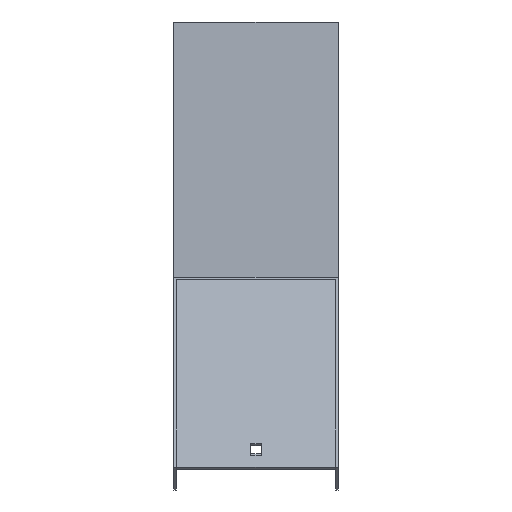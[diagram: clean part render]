
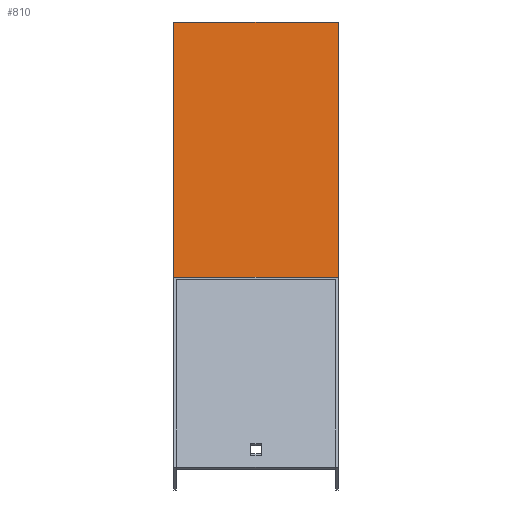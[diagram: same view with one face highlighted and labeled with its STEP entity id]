
A CAD part, top view. The second image highlights one B-rep face of the part: STEP entity #810.
In plain terms, the highlighted planar face has unit normal (0, 0.924, 0.383).
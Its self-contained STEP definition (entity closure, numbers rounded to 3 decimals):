
#8 = VERTEX_POINT ( 'NONE', #545 ) ;
#21 = CARTESIAN_POINT ( 'NONE',  ( -51.5, 20., 168.978 ) ) ;
#46 = DIRECTION ( 'NONE',  ( 0., 0.383, -0.924 ) ) ;
#94 = DIRECTION ( 'NONE',  ( -1., 0., 0. ) ) ;
#116 = EDGE_CURVE ( 'NONE', #495, #609, #800, .T. ) ;
#140 = CARTESIAN_POINT ( 'NONE',  ( 51.5, 20., 168.978 ) ) ;
#148 = ORIENTED_EDGE ( 'NONE', *, *, #116, .T. ) ;
#155 = DIRECTION ( 'NONE',  ( 0., -0.383, 0.924 ) ) ;
#166 = ORIENTED_EDGE ( 'NONE', *, *, #533, .F. ) ;
#171 = DIRECTION ( 'NONE',  ( 0., -0.924, -0.383 ) ) ;
#182 = VECTOR ( 'NONE', #155, 1000. ) ;
#251 = VECTOR ( 'NONE', #94, 1000. ) ;
#263 = EDGE_CURVE ( 'NONE', #8, #495, #592, .T. ) ;
#293 = CARTESIAN_POINT ( 'NONE',  ( 51.5, 18.478, 172.654 ) ) ;
#314 = VECTOR ( 'NONE', #528, 1000. ) ;
#326 = CARTESIAN_POINT ( 'NONE',  ( 51.5, -141.093, 557.891 ) ) ;
#402 = DIRECTION ( 'NONE',  ( 0., -0.383, 0.924 ) ) ;
#461 = LINE ( 'NONE', #485, #251 ) ;
#485 = CARTESIAN_POINT ( 'NONE',  ( 51.5, -141.093, 557.891 ) ) ;
#495 = VERTEX_POINT ( 'NONE', #21 ) ;
#528 = DIRECTION ( 'NONE',  ( -1., 0., 0. ) ) ;
#533 = EDGE_CURVE ( 'NONE', #8, #651, #685, .T. ) ;
#537 = ORIENTED_EDGE ( 'NONE', *, *, #670, .F. ) ;
#545 = CARTESIAN_POINT ( 'NONE',  ( 51.5, 20., 168.978 ) ) ;
#566 = CARTESIAN_POINT ( 'NONE',  ( 51.5, 18.478, 172.654 ) ) ;
#581 = ORIENTED_EDGE ( 'NONE', *, *, #263, .T. ) ;
#592 = LINE ( 'NONE', #140, #314 ) ;
#609 = VERTEX_POINT ( 'NONE', #759 ) ;
#645 = EDGE_LOOP ( 'NONE', ( #148, #537, #166, #581 ) ) ;
#651 = VERTEX_POINT ( 'NONE', #326 ) ;
#670 = EDGE_CURVE ( 'NONE', #651, #609, #461, .T. ) ;
#685 = LINE ( 'NONE', #293, #182 ) ;
#690 = AXIS2_PLACEMENT_3D ( 'NONE', #566, #171, #46 ) ;
#759 = CARTESIAN_POINT ( 'NONE',  ( -51.5, -141.093, 557.891 ) ) ;
#766 = PLANE ( 'NONE',  #690 ) ;
#795 = CARTESIAN_POINT ( 'NONE',  ( -51.5, 18.478, 172.654 ) ) ;
#800 = LINE ( 'NONE', #795, #814 ) ;
#810 = ADVANCED_FACE ( 'NONE', ( #851 ), #766, .F. ) ;
#814 = VECTOR ( 'NONE', #402, 1000. ) ;
#851 = FACE_OUTER_BOUND ( 'NONE', #645, .T. ) ;
